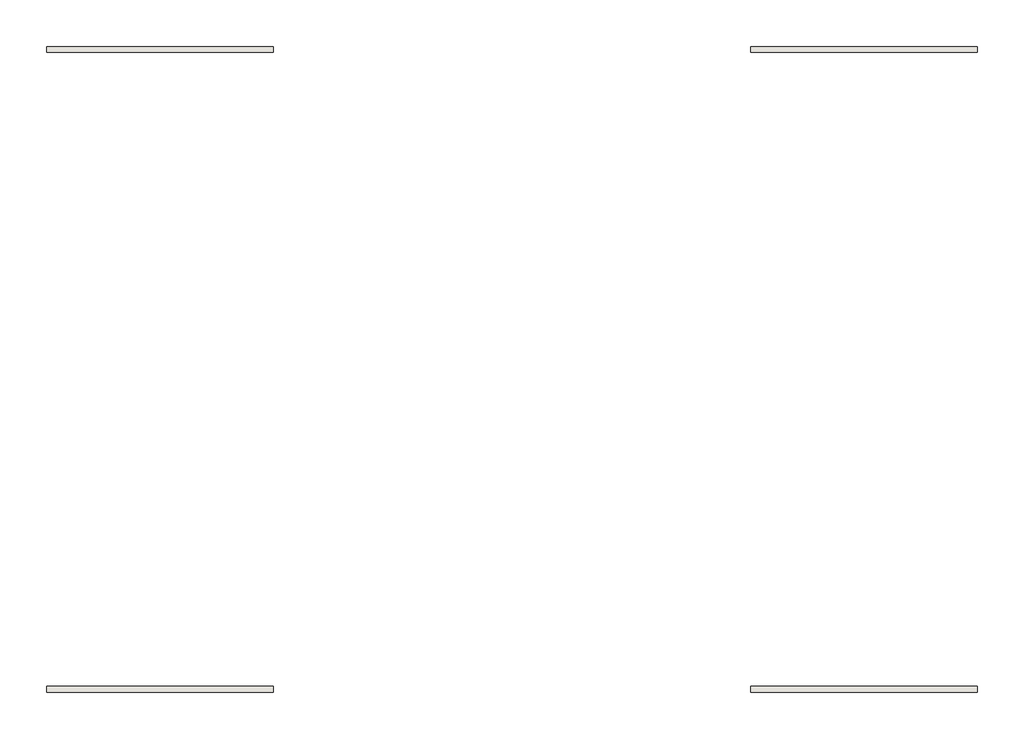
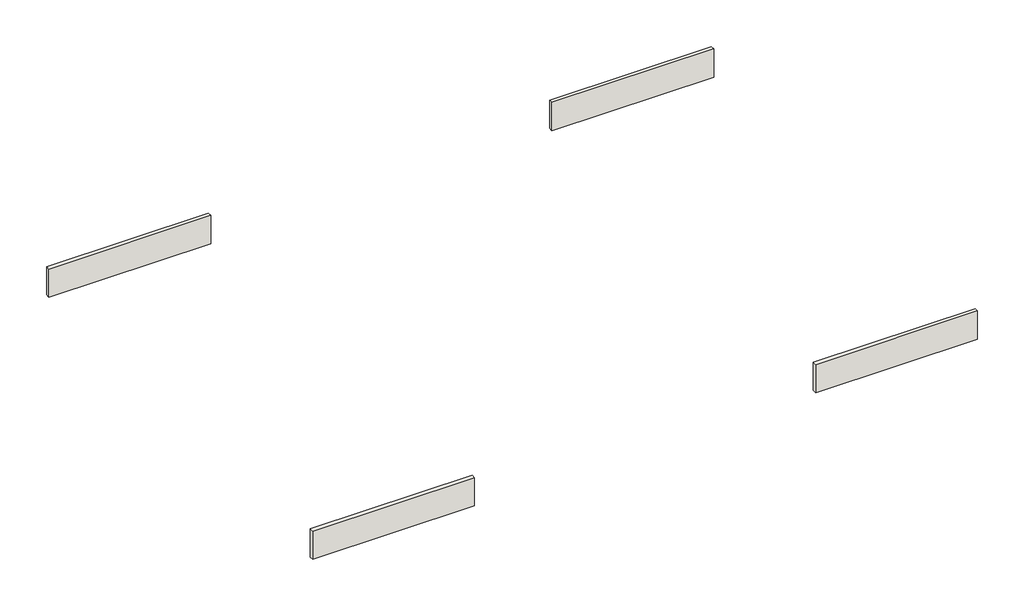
# One storey: 4 walls.
"""IFC4 building model written with IfcOpenShell, lengths in millimetres."""

from ifc_helpers import new_model, si_unit, frame, origin, place, context, project, spatial, polyline, outline, extrude, element, save

model = new_model("IFC4")

# Units and contexts
model_context = context("Model", 3, world=origin())
ifc_project = project(units=[si_unit("LENGTHUNIT", "METRE", prefix="MILLI")], contexts=[model_context])

# Site, building, storey
site = spatial("IfcSite", under=ifc_project)
building = spatial("IfcBuilding", under=site)
storey = spatial("IfcBuildingStorey", under=building, Name="Arase refend", Elevation=2490.0)

# Walls
placement = place(None, origin())
element("IfcWall", 1, ObjectType="caillebotis", at=placement, inside=storey, context=model_context, shape_type="SweptSolid", body=[
    extrude(outline(polyline([(4502.180156, 21656.1413117), (2502.180156, 21656.1413117), (2502.180156, 21706.1413117), (4502.180156, 21706.1413117), (4502.180156, 21656.1413117)])), frame((0.0, 0.0, 2490.0), z_axis=(0.0, 0.0, 1.0), x_axis=(1.0, 0.0, 0.0)), (0.0, 0.0, 1.0), 370.0),
])
element("IfcWall", 2, ObjectType="caillebotis", at=placement, inside=storey, context=model_context, shape_type="SweptSolid", body=[
    extrude(outline(polyline([(-1717.819844, 21656.1413117), (-3717.819844, 21656.1413117), (-3717.819844, 21706.1413117), (-1717.819844, 21706.1413117), (-1717.819844, 21656.1413117)])), frame((0.0, 0.0, 2490.0), z_axis=(0.0, 0.0, 1.0), x_axis=(1.0, 0.0, 0.0)), (0.0, 0.0, 1.0), 370.0),
])
element("IfcWall", 3, ObjectType="caillebotis", at=placement, inside=storey, context=model_context, shape_type="SweptSolid", body=[
    extrude(outline(polyline([(4502.180156, 27306.1413117), (2502.180156, 27306.1413117), (2502.180156, 27356.1413117), (4502.180156, 27356.1413117), (4502.180156, 27306.1413117)])), frame((0.0, 0.0, 2490.0), z_axis=(0.0, 0.0, 1.0), x_axis=(1.0, 0.0, 0.0)), (0.0, 0.0, 1.0), 370.0),
])
element("IfcWall", 4, ObjectType="caillebotis", at=placement, inside=storey, context=model_context, shape_type="SweptSolid", body=[
    extrude(outline(polyline([(-1717.819844, 27306.1413117), (-3717.819844, 27306.1413117), (-3717.819844, 27356.1413117), (-1717.819844, 27356.1413117), (-1717.819844, 27306.1413117)])), frame((0.0, 0.0, 2490.0), z_axis=(0.0, 0.0, 1.0), x_axis=(1.0, 0.0, 0.0)), (0.0, 0.0, 1.0), 370.0),
])

save(model, "model.ifc")
